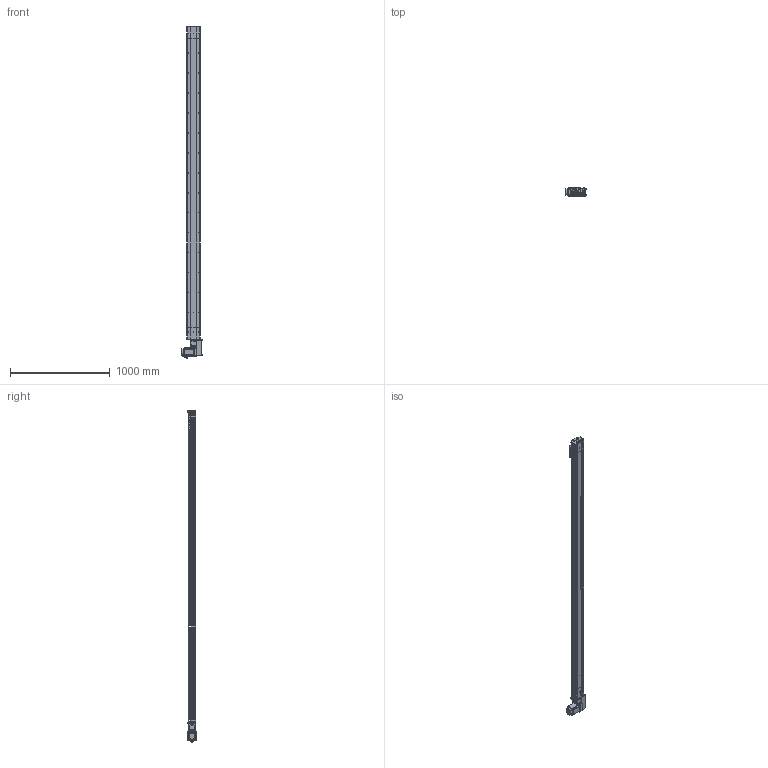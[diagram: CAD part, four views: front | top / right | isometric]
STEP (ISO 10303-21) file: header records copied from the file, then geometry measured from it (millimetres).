
FILE_DESCRIPTION (( 'STEP AP214' ), '1' );
FILE_NAME ('D14 TBH LH S2900.STEP', '2010-06-29T14:43:36', ( 'Conseil Régional Haute-Normandie' ), ( 'Conseil Régional Haute-Normandie' ), 'SwSTEP 2.0', 'SolidWorks 2010', '' );
FILE_SCHEMA (( 'AUTOMOTIVE_DESIGN' ));
Length unit declared in the file: millimetre
Products named in the file (39): vis M5 L5_Default; guide D14; chariot D14B_Default; Cvis M5 L70_Default; Vis M5 L16-2_Default; Chariot D14; vis M5 L12_Default; plaque de  bout head D14 LH_Default; Rail + couroie D14 Course 2900 ; D14 couroie L2900_Default; corpl 2900_Default; D14 TBH LH S2900; vis M5 L16_Default; D14 TB H LH_Default; corp head D14_Default; poulie tail_Default; Tail D14B_Default; couvercle D14 course L2900_Default; vis M5 L8 90°_Default; couvercle D14_Default; Couroie_Default; Arbre+rail tail D14; plaque de  bout tail D14_Default; tete d''axe haut D14; corpl tail D14_Default; renvoi LH_Default; Cache arbre_Default; Conecteur2_Default; codeur 90BLDC100-640; Cache_Default; Conecteur_Default; corps 90BLDC100A-640; Plaque racord D14_Default; avant 90BLDC100A-640; Moteur motionking 90BLDC100A-640; couvercle D14 head_Default; Arbre+rail head D14; couroie 2_Default; poulie head_Default
Assembly tree (68 placements, depth 4):
  D14 TBH LH S2900
    D14 TB H LH_Default
      vis M5 L12_Default  x12
      Cache arbre_Default
      Cache_Default  x2
      Cvis M5 L70_Default  x4
      renvoi LH_Default
      Arbre+rail head D14
      poulie head_Default
      Vis M5 L16-2_Default  x4
      Plaque racord D14_Default
      plaque de  bout head D14 LH_Default
      couroie 2_Default
      couvercle D14 head_Default
      Moteur motionking 90BLDC100A-640
        codeur 90BLDC100-640
        Conecteur2_Default
        corps 90BLDC100A-640
        Conecteur_Default
        avant 90BLDC100A-640
      vis M5 L5_Default  x2
      corp head D14_Default
    Tail D14B_Default
      vis M5 L12_Default  x4
      vis M5 L8 90°_Default  x2
      corpl tail D14_Default
      couvercle D14_Default
      Arbre+rail tail D14
      poulie tail_Default
      vis M5 L16_Default  x2
      tete d''axe haut D14
      plaque de  bout tail D14_Default
      Couroie_Default
    chariot D14B_Default
      vis M5 L12_Default  x4
      guide D14  x2
      Chariot D14
    D14 couroie L2900_Default
      Rail + couroie D14 Course 2900 
      corpl 2900_Default
      couvercle D14 course L2900_Default
Bounding box: 207.2 x 85.9 x 3332.45 mm (x, y, z)
Volume: 11858253.3 mm3; surface area: 4333119.9 mm2
Topology: 92 solids, 92 shells, 2757 faces, 6719 edges, 4338 vertices
Faces by surface type: plane 1621, cylinder 823, bspline 136, torus 89, cone 84, sphere 4
Entity records: 82916 total; most frequent: CARTESIAN_POINT 24153, ORIENTED_EDGE 10298, DIRECTION 10232, EDGE_CURVE 5149, AXIS2_PLACEMENT_3D 3431, VERTEX_POINT 3388, VECTOR 3370, LINE 3370
